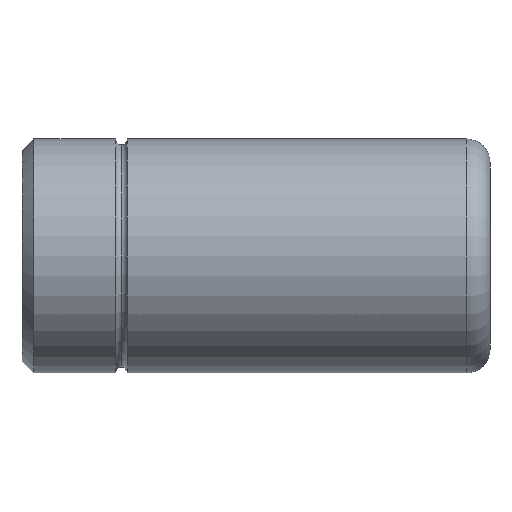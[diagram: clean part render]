
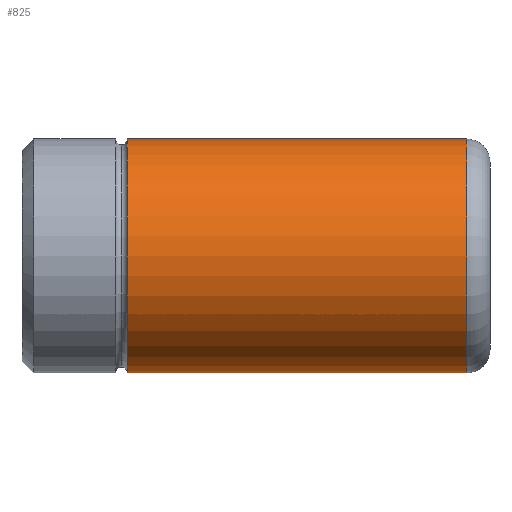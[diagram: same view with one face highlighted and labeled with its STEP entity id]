
A CAD part, front view. The second image highlights one B-rep face of the part: STEP entity #825.
In plain terms, the highlighted cylindrical face has radius 15 mm (diameter 30 mm), a partial arc.
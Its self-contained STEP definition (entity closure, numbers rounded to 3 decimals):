
#641=CARTESIAN_POINT('Vertex',(13.5,0.,15.)) ;
#648=CARTESIAN_POINT('Vertex',(13.5,0.,-15.)) ;
#674=CARTESIAN_POINT('Axis2P3D Location',(13.5,0.,0.)) ;
#678=CARTESIAN_POINT('Vertex',(13.5,-15.,0.)) ;
#681=CARTESIAN_POINT('Axis2P3D Location',(13.5,0.,0.)) ;
#765=CARTESIAN_POINT('Line Origine',(60.,0.,15.)) ;
#769=CARTESIAN_POINT('Vertex',(57.,0.,15.)) ;
#783=CARTESIAN_POINT('Vertex',(57.,0.,-15.)) ;
#786=CARTESIAN_POINT('Line Origine',(60.,0.,-15.)) ;
#800=CARTESIAN_POINT('Axis2P3D Location',(60.,0.,0.)) ;
#805=CARTESIAN_POINT('Axis2P3D Location',(57.,0.,0.)) ;
#809=CARTESIAN_POINT('Vertex',(57.,-15.,0.)) ;
#812=CARTESIAN_POINT('Axis2P3D Location',(57.,0.,0.)) ;
#675=DIRECTION('Axis2P3D Direction',(1.,-0.,0.)) ;
#682=DIRECTION('Axis2P3D Direction',(1.,-0.,0.)) ;
#766=DIRECTION('Vector Direction',(-1.,0.,0.)) ;
#787=DIRECTION('Vector Direction',(-1.,0.,0.)) ;
#801=DIRECTION('Axis2P3D Direction',(-1.,-0.,-0.)) ;
#802=DIRECTION('Axis2P3D XDirection',(0.,0.,-1.)) ;
#806=DIRECTION('Axis2P3D Direction',(-1.,-0.,-0.)) ;
#813=DIRECTION('Axis2P3D Direction',(-1.,-0.,-0.)) ;
#676=AXIS2_PLACEMENT_3D('Circle Axis2P3D',#674,#675,$) ;
#683=AXIS2_PLACEMENT_3D('Circle Axis2P3D',#681,#682,$) ;
#803=AXIS2_PLACEMENT_3D('Cylinder Axis2P3D',#800,#801,#802) ;
#807=AXIS2_PLACEMENT_3D('Circle Axis2P3D',#805,#806,$) ;
#814=AXIS2_PLACEMENT_3D('Circle Axis2P3D',#812,#813,$) ;
#818=ORIENTED_EDGE('',*,*,#790,.T.) ;
#819=ORIENTED_EDGE('',*,*,#811,.F.) ;
#820=ORIENTED_EDGE('',*,*,#816,.F.) ;
#821=ORIENTED_EDGE('',*,*,#771,.T.) ;
#822=ORIENTED_EDGE('',*,*,#685,.T.) ;
#823=ORIENTED_EDGE('',*,*,#680,.T.) ;
#767=VECTOR('Line Direction',#766,1.) ;
#788=VECTOR('Line Direction',#787,1.) ;
#825=ADVANCED_FACE('343-20 x 60',(#824),#804,.T.) ;
#677=CIRCLE('generated circle',#676,15.) ;
#684=CIRCLE('generated circle',#683,15.) ;
#808=CIRCLE('generated circle',#807,15.) ;
#815=CIRCLE('generated circle',#814,15.) ;
#804=CYLINDRICAL_SURFACE('generated cylinder',#803,15.) ;
#680=EDGE_CURVE('',#679,#649,#677,.T.) ;
#685=EDGE_CURVE('',#642,#679,#684,.T.) ;
#771=EDGE_CURVE('',#770,#642,#768,.T.) ;
#790=EDGE_CURVE('',#649,#784,#789,.F.) ;
#811=EDGE_CURVE('',#810,#784,#808,.F.) ;
#816=EDGE_CURVE('',#770,#810,#815,.F.) ;
#817=EDGE_LOOP('',(#818,#819,#820,#821,#822,#823)) ;
#824=FACE_OUTER_BOUND('',#817,.T.) ;
#768=LINE('Line',#765,#767) ;
#789=LINE('Line',#786,#788) ;
#642=VERTEX_POINT('',#641) ;
#649=VERTEX_POINT('',#648) ;
#679=VERTEX_POINT('',#678) ;
#770=VERTEX_POINT('',#769) ;
#784=VERTEX_POINT('',#783) ;
#810=VERTEX_POINT('',#809) ;
